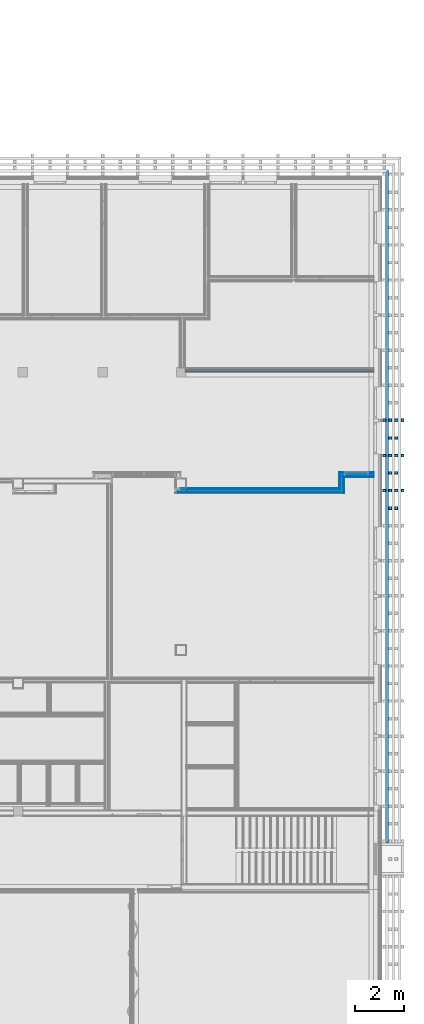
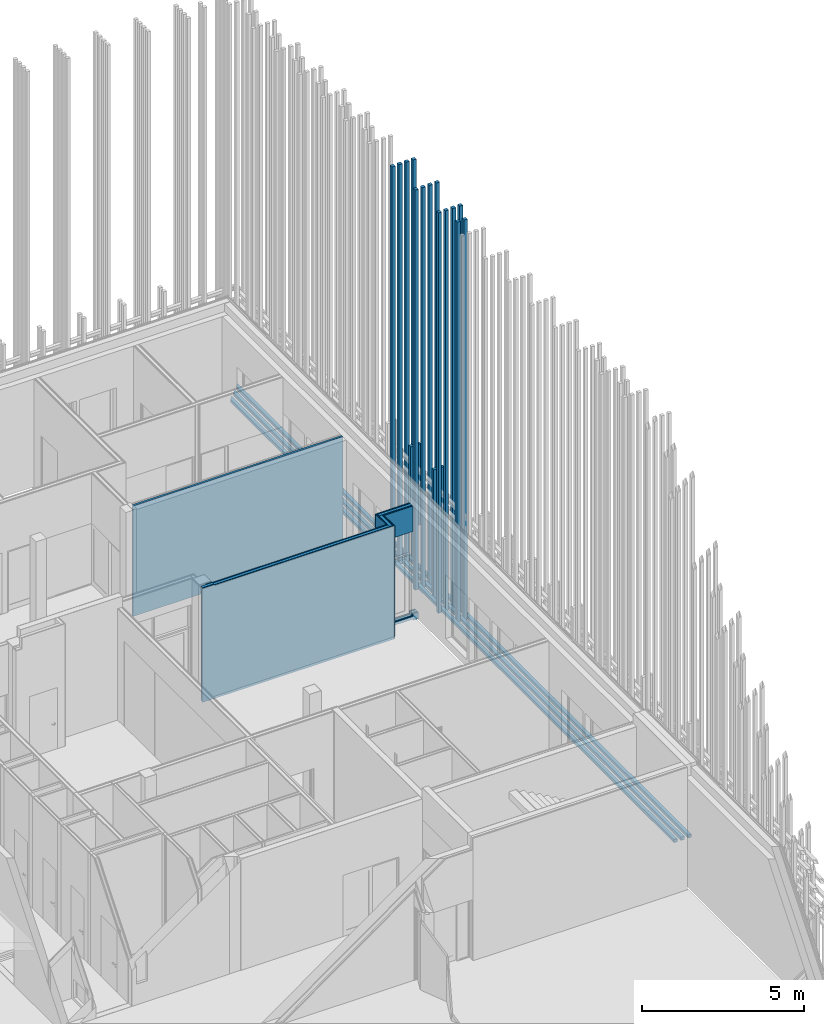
# One storey, part 214 of 260: 27 building element parts, 7 discrete accessories, 1 opening, 4 elements without a shape of their own.
"""IFC2X3 building model written with IfcOpenShell, lengths in millimetres."""

import ifcopenshell
import ifcopenshell.guid

model = None  # the IFC model being written
_history = None  # IfcOwnerHistory: only IFC2X3 demands one
_inside = {}  # id of a spatial element -> (the spatial element, [elements in it])
_under = {}  # id of a project, library or spatial element -> (it, [spatial elements below it])
_declared = {}  # id of a project -> (the project, [libraries it declares])
_typed = {}  # id of a type object -> (the type object, [elements of that type])
_made_of = {}  # id of a material, layer set ... -> (it, [elements and type objects made of it])


def new_model(schema):
    """Start an empty IFC model of exactly this schema.

    Asked for "IFC4X3", IfcOpenShell would pick the latest addendum, in which some entities
    have other attributes; the version numbers below select the first issue.
    IFC2X3 requires an IfcOwnerHistory on every rooted entity: one is made here for all.
    """
    global model, _history
    if schema == "IFC4X3":
        model = ifcopenshell.file(schema_version=(4, 3, 0, 0))
    else:
        model = ifcopenshell.file(schema=schema)
    _inside.clear()
    _under.clear()
    _declared.clear()
    _typed.clear()
    _made_of.clear()
    _history = None
    if model.schema == "IFC2X3":
        org = make("IfcOrganization", Name="unknown")
        user = make(
            "IfcPersonAndOrganization",
            ThePerson=make("IfcPerson", FamilyName="unknown"),
            TheOrganization=org,
        )
        app = make(
            "IfcApplication",
            ApplicationDeveloper=org,
            Version="unknown",
            ApplicationFullName="unknown",
            ApplicationIdentifier="unknown",
        )
        _history = make(
            "IfcOwnerHistory",
            OwningUser=user,
            OwningApplication=app,
            ChangeAction="ADDED",
            CreationDate=0,
        )
    return model


def make(cls, **values):
    """One entity of the class cls with the attributes given. An attribute that is None is left unset."""
    return model.create_entity(
        cls, **{name: value for name, value in values.items() if value is not None}
    )


def entity(cls, *values):
    """Any entity or typed value of the class cls, its attributes in the order of the schema. None: left unset."""
    e = model.create_entity(cls)
    for i, value in enumerate(values):
        if value is not None:
            e[i] = value
    return e


def rooted(cls, **values):
    """An entity with a GlobalId (a new one), such as an element, a storey or a relation."""
    return make(cls, GlobalId=ifcopenshell.guid.new(), OwnerHistory=_history, **values)


def si_unit(unit_type, name, prefix=None):
    """IfcSIUnit, for example si_unit("LENGTHUNIT", "METRE", prefix="MILLI")."""
    return make("IfcSIUnit", UnitType=unit_type, Prefix=prefix, Name=name)


def converted_unit(unit_type, name, factor, base, dimensions=None, offset=None):
    """IfcConversionBasedUnit, such as the inch: factor (a typed value) times the base unit."""
    return make(
        "IfcConversionBasedUnit"
        if offset is None
        else "IfcConversionBasedUnitWithOffset",
        ConversionOffset=offset,
        Dimensions=None
        if dimensions is None
        else entity("IfcDimensionalExponents", *dimensions),
        UnitType=unit_type,
        Name=name,
        ConversionFactor=make(
            "IfcMeasureWithUnit", ValueComponent=factor, UnitComponent=base
        ),
    )


def derived_unit(unit_type, elements):
    """IfcDerivedUnit: a product of units, each with its exponent."""
    return make(
        "IfcDerivedUnit",
        Elements=[
            make("IfcDerivedUnitElement", Unit=unit, Exponent=power)
            for unit, power in elements
        ],
        UnitType=unit_type,
    )


def money_unit(currency):
    """IfcMonetaryUnit."""
    return make("IfcMonetaryUnit", Currency=currency)


def assignment(units):
    """IfcUnitAssignment: the units of a project."""
    return None if units is None else make("IfcUnitAssignment", Units=units)


def point(xyz):
    """IfcCartesianPoint."""
    return None if xyz is None else make("IfcCartesianPoint", Coordinates=xyz)


def direction(xyz):
    """IfcDirection."""
    return None if xyz is None else make("IfcDirection", DirectionRatios=xyz)


def frame(location, z_axis=None, x_axis=None):
    """IfcAxis2Placement3D, a coordinate frame: its origin and axes. An axis left out is left unset."""
    return make(
        "IfcAxis2Placement3D",
        Location=point(location),
        Axis=direction(z_axis),
        RefDirection=direction(x_axis),
    )


def origin_with_axes():
    """The frame at (0, 0, 0) with the z axis (0, 0, 1) and the x axis (1, 0, 0) written out."""
    return frame((0.0, 0.0, 0.0), z_axis=(0.0, 0.0, 1.0), x_axis=(1.0, 0.0, 0.0))


def place(relative_to, where):
    """IfcLocalPlacement: puts the frame where relative to a parent placement (None: the world)."""
    return make(
        "IfcLocalPlacement", PlacementRelTo=relative_to, RelativePlacement=where
    )


def context(
    kind, dimensions, precision=None, world=None, true_north=None, identifier=None
):
    """IfcGeometricRepresentationContext, for example the 3D "Model" context."""
    return make(
        "IfcGeometricRepresentationContext",
        ContextIdentifier=identifier,
        ContextType=kind,
        CoordinateSpaceDimension=dimensions,
        Precision=precision,
        WorldCoordinateSystem=world,
        TrueNorth=true_north,
    )


def subcontext(parent, identifier, kind, view, scale=None):
    """IfcGeometricRepresentationSubContext, for example "Body" below "Model"."""
    return make(
        "IfcGeometricRepresentationSubContext",
        ContextIdentifier=identifier,
        ContextType=kind,
        ParentContext=parent,
        TargetScale=scale,
        TargetView=view,
    )


def project(units=None, contexts=None):
    """IfcProject with its units and contexts."""
    return rooted(
        "IfcProject",
        Name="project",
        RepresentationContexts=contexts,
        UnitsInContext=assignment(units),
    )


def spatial(cls, under=None, at=None, **own):
    """A site, building, storey or space (cls), placed at a placement, below another one or the project."""
    s = rooted(cls, ObjectPlacement=at, **own)
    if under is not None:
        _under.setdefault(under.id(), (under, []))[1].append(s)
    return s


def faces_of(points, faces, orient=None, outer=None):
    """IfcFace entities. A face is a list of loops; a loop is a list of indices into points, from 0.

    orient and outer hold one flag for each loop. By default every Orientation is true, the
    first loop of a face is its IfcFaceOuterBound and the others are IfcFaceBound.
    """
    made = []
    for i, loops in enumerate(faces):
        bounds = []
        for j, loop in enumerate(loops):
            is_outer = j == 0 if outer is None else outer[i][j]
            bounds.append(
                make(
                    "IfcFaceOuterBound" if is_outer else "IfcFaceBound",
                    Bound=make("IfcPolyLoop", Polygon=[points[k] for k in loop]),
                    Orientation=True if orient is None else orient[i][j],
                )
            )
        made.append(make("IfcFace", Bounds=bounds))
    return made


def faceted_brep(points, faces, orient=None, outer=None, voids=None):
    """IfcFacetedBrep: a solid bounded by flat faces; with voids (closed shells), ...WithVoids."""
    shared = [point(p) for p in points]
    hull = make("IfcClosedShell", CfsFaces=faces_of(shared, faces, orient, outer))
    if voids is None:
        return make("IfcFacetedBrep", Outer=hull)
    return make(
        "IfcFacetedBrepWithVoids",
        Outer=hull,
        Voids=[
            make(cls, CfsFaces=faces_of(shared, fs, o, b)) for cls, fs, o, b in voids
        ],
    )


def shape(context_of_items, identifier, shape_type, items):
    """IfcShapeRepresentation: the items that make up one representation, for example the "Body"."""
    return make(
        "IfcShapeRepresentation",
        ContextOfItems=context_of_items,
        RepresentationIdentifier=identifier,
        RepresentationType=shape_type,
        Items=items,
    )


def material(Name=None, Category=None):
    """IfcMaterial."""
    return make("IfcMaterial", Name=Name, Category=Category)


def material_list(materials):
    """IfcMaterialList."""
    return make("IfcMaterialList", Materials=materials)


def made_of(thing, what):
    """Note that an element or type object is made of a material, layer set ...; save() writes the relation."""
    if what is not None:
        _made_of.setdefault(what.id(), (what, []))[1].append(thing)
    return thing


def type_object(cls, material=None, **own):
    """A type object (cls), such as IfcWallType, which elements share."""
    return made_of(rooted(cls, **own), material)


def element(
    cls,
    number,
    at=None,
    inside=None,
    cuts=None,
    type_object=None,
    material=None,
    context=None,
    identifier="Body",
    shape_type=None,
    held_by="IfcProductDefinitionShape",
    body=None,
    shapes=None,
    **own,
):
    """One element of the class cls, such as IfcWall. Its Tag is "e" and its number.

    at: its placement. inside: the storey or other place that contains it. cuts: it is an
    opening in that element (IfcRelVoidsElement). A single representation is given by context,
    identifier, shape_type and body (its items); several are given by shapes. held_by: the class
    of the entity that holds the representations. save() writes the other relations.
    """
    e = rooted(cls, Tag="e%d" % number, ObjectPlacement=at, **own)
    if body is not None:
        shapes = [shape(context, identifier, shape_type, body)]
    if shapes is not None:
        e.Representation = make(held_by, Representations=shapes)
    if inside is not None:
        _inside.setdefault(inside.id(), (inside, []))[1].append(e)
    if cuts is not None:
        rooted(
            "IfcRelVoidsElement", RelatingBuildingElement=cuts, RelatedOpeningElement=e
        )
    if type_object is not None:
        _typed.setdefault(type_object.id(), (type_object, []))[1].append(e)
    return made_of(e, material)


def aggregate(whole, parts):
    """IfcRelAggregates: a whole, such as a stair, and the parts it consists of."""
    return rooted("IfcRelAggregates", RelatingObject=whole, RelatedObjects=parts)


def save(model, path):
    """Write the relations noted so far, then the file.

    IfcRelAggregates (storeys below a building ...), IfcRelContainedInSpatialStructure (elements
    in a storey), IfcRelDefinesByType, IfcRelAssociatesMaterial and IfcRelDeclares: one each for
    every whole, place, type object, material and project.
    """
    for whole, parts in _under.values():
        aggregate(whole, parts)
    for where, things in _inside.values():
        rooted(
            "IfcRelContainedInSpatialStructure",
            RelatedElements=things,
            RelatingStructure=where,
        )
    for kind, things in _typed.values():
        rooted("IfcRelDefinesByType", RelatedObjects=things, RelatingType=kind)
    for what, things in _made_of.values():
        rooted("IfcRelAssociatesMaterial", RelatedObjects=things, RelatingMaterial=what)
    for by, libraries in _declared.values():
        rooted("IfcRelDeclares", RelatingContext=by, RelatedDefinitions=libraries)
    model.write(path)


model = new_model("IFC2X3")

# Units and contexts
model_context = context("Model", 3, precision=0.01, world=origin_with_axes(), true_north=direction((0.0, 1.0)))
body_context = subcontext(model_context, "Body", "Model", "MODEL_VIEW")
ifc_project = project(units=[si_unit("LENGTHUNIT", "METRE", prefix="MILLI"), si_unit("AREAUNIT", "SQUARE_METRE"), si_unit("VOLUMEUNIT", "CUBIC_METRE"), converted_unit("PLANEANGLEUNIT", "DEGREE", entity("IfcPlaneAngleMeasure", 0.0174532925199), si_unit("PLANEANGLEUNIT", "RADIAN"), dimensions=[0, 0, 0, 0, 0, 0, 0]), money_unit("EUR"), converted_unit("TIMEUNIT", "Year", entity("IfcTimeMeasure", 31556926.0), si_unit("TIMEUNIT", "SECOND"), dimensions=[0, 0, 1, 0, 0, 0, 0]), si_unit("MASSUNIT", "GRAM", prefix="KILO"), si_unit("THERMODYNAMICTEMPERATUREUNIT", "DEGREE_CELSIUS"), si_unit("LUMINOUSINTENSITYUNIT", "LUMEN"), si_unit("ENERGYUNIT", "JOULE", prefix="MEGA"), derived_unit("THERMALCONDUCTANCEUNIT", [(si_unit("POWERUNIT", "WATT"), 1), (si_unit("LENGTHUNIT", "METRE"), -1), (si_unit("THERMODYNAMICTEMPERATUREUNIT", "KELVIN"), -1)]), derived_unit("SPECIFICHEATCAPACITYUNIT", [(si_unit("ENERGYUNIT", "JOULE"), 1), (si_unit("MASSUNIT", "GRAM", prefix="KILO"), -1), (si_unit("THERMODYNAMICTEMPERATUREUNIT", "KELVIN"), -1)]), derived_unit("MASSDENSITYUNIT", [(si_unit("MASSUNIT", "GRAM", prefix="KILO"), 1), (si_unit("VOLUMEUNIT", "CUBIC_METRE"), -1)])], contexts=[model_context])

# Site, building, storey
site_placement = place(None, origin_with_axes())
site = spatial("IfcSite", under=ifc_project, at=site_placement, Name="Kolde pst 67a", CompositionType="ELEMENT")
building_placement = place(site_placement, origin_with_axes())
building = spatial("IfcBuilding", under=site, at=building_placement, Name="Riigigümnaasium", CompositionType="ELEMENT")
storey_placement = place(building_placement, origin_with_axes())
storey = spatial("IfcBuildingStorey", under=building, at=storey_placement, Name="1. korrus", CompositionType="ELEMENT", Elevation=0.0)

# Discrete accessories
ifc_material_1 = material(Name="_VÄLISVIIMISTLUS - sõrmjätkatud puitprussid 120x115mm, liitekohad vähemärgatavad, Platowood sõrmjätkatud kuusk või samaväärne; eeltöödeldud tuletõkkevõõbaga, tuletundlikkus B-s1, d0, Woodsafe Exterior WFX™ või samaväärne; kinnitused vastavalt EK osale")
ifc_material_list_1 = material_list([ifc_material_1, ifc_material_1, ifc_material_1, ifc_material_1])
discrete_accessory_type_1 = type_object("IfcDiscreteAccessoryType", Name="120 4-ne vertikaalne 870 x 115")
for number, where, z_axis, x_axis in (
    (1, (84792.0363482, 23947.5301381, 280.0), (0.0, 0.0, 1.0), (-0.999999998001, 6.32316306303e-05, 0.0)),
    (2, (84792.0363482, 25377.5259013, 280.0), (0.0, 0.0, 1.0), (-0.999999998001, 6.32316306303e-05, 0.0)),
    (3, (84792.0287604, 26807.5259029, 280.0), (0.0, 0.0, 1.0), (-0.999999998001, 6.32316306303e-05, 0.0)),
):
    element("IfcDiscreteAccessory", number, at=place(storey_placement, frame(where, z_axis=z_axis, x_axis=x_axis)), inside=storey, type_object=discrete_accessory_type_1, material=ifc_material_list_1, Name="Päikesevarjestus", context=body_context, shape_type="Brep", body=[
        faceted_brep([(-133.0, -70.0, 0.0), (-13.0, -70.0, 0.0), (-13.0, -70.0, 15050.0), (-133.0, -70.0, 15050.0), (-133.0, 45.0, 0.0), (-13.0, 45.0, 0.0), (-13.0, 45.0, 15050.0), (-133.0, 45.0, 15050.0)], [[[0, 1, 2, 3]], [[0, 4, 5, 1]], [[1, 5, 6, 2]], [[3, 2, 6, 7]], [[4, 0, 3, 7]], [[5, 4, 7, 6]]]),
        faceted_brep([(-383.0, -70.0, 0.0), (-263.0, -70.0, 0.0), (-263.0, -70.0, 15050.0), (-383.0, -70.0, 15050.0), (-383.0, 45.0, 0.0), (-263.0, 45.0, 0.0), (-263.0, 45.0, 15050.0), (-383.0, 45.0, 15050.0)], [[[0, 1, 2, 3]], [[0, 4, 5, 1]], [[1, 5, 6, 2]], [[3, 2, 6, 7]], [[4, 0, 3, 7]], [[5, 4, 7, 6]]]),
        faceted_brep([(-633.0, -70.0, 0.0), (-513.0, -70.0, 0.0), (-513.0, -70.0, 15050.0), (-633.0, -70.0, 15050.0), (-633.0, 45.0, 0.0), (-513.0, 45.0, 0.0), (-513.0, 45.0, 15050.0), (-633.0, 45.0, 15050.0)], [[[0, 1, 2, 3]], [[0, 4, 5, 1]], [[1, 5, 6, 2]], [[3, 2, 6, 7]], [[4, 0, 3, 7]], [[5, 4, 7, 6]]]),
        faceted_brep([(-883.0, -70.0, 0.0), (-763.0, -70.0, 0.0), (-763.0, -70.0, 15050.0), (-883.0, -70.0, 15050.0), (-883.0, 45.0, 0.0), (-763.0, 45.0, 0.0), (-763.0, 45.0, 15050.0), (-883.0, 45.0, 15050.0)], [[[0, 1, 2, 3]], [[0, 4, 5, 1]], [[1, 5, 6, 2]], [[3, 2, 6, 7]], [[4, 0, 3, 7]], [[5, 4, 7, 6]]]),
    ])
ifc_material_list_2 = material_list([ifc_material_1, ifc_material_1, ifc_material_1])
discrete_accessory_type_2 = type_object("IfcDiscreteAccessoryType", Name="120 1+paiksekaitse 3 tk  620 x 115")
discrete_accessory_1_placement = place(storey_placement, frame((84805.0333446, 9600.03116349, 352.5), z_axis=(0.0, 0.0, 1.0), x_axis=(1.0, -4.4594955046e-07, 0.0)))
element("IfcDiscreteAccessory", 4, at=discrete_accessory_1_placement, inside=storey, type_object=discrete_accessory_type_2, material=ifc_material_list_2, Name="Päikesevarjestus", context=body_context, shape_type="Brep", body=[
    faceted_brep([(625.0, 27829.9411595, 45.0), (625.0, 0.0, 45.0), (745.0, 0.0, 45.0), (745.0, 27949.9412422, 45.0), (625.0, 27829.9411595, -70.0), (625.0, 0.0, -70.0), (745.0, 0.0, -70.0), (745.0, 27949.9412422, -70.0)], [[[0, 1, 2, 3]], [[4, 5, 1, 0]], [[5, 6, 2, 1]], [[3, 2, 6, 7]], [[4, 0, 3, 7]], [[7, 6, 5, 4]]]),
    faceted_brep([(375.0, 27579.9409871, 45.0), (375.0, 0.0, 45.0), (495.0, 0.0, 45.0), (495.0, 27699.9410699, 45.0), (375.0, 27579.9409871, -70.0), (375.0, 0.0, -70.0), (495.0, 0.0, -70.0), (495.0, 27699.9410699, -70.0)], [[[0, 1, 2, 3]], [[4, 5, 1, 0]], [[5, 6, 2, 1]], [[3, 2, 6, 7]], [[4, 0, 3, 7]], [[7, 6, 5, 4]]]),
    faceted_brep([(125.0, 27329.9408147, 45.0), (125.0, 0.0, 45.0), (245.0, 0.0, 45.0), (245.0, 27449.9408975, 45.0), (125.0, 27329.9408147, -70.0), (125.0, 0.0, -70.0), (245.0, 0.0, -70.0), (245.0, 27449.9408975, -70.0)], [[[0, 1, 2, 3]], [[4, 5, 1, 0]], [[5, 6, 2, 1]], [[3, 2, 6, 7]], [[4, 0, 3, 7]], [[7, 6, 5, 4]]]),
])
ifc_material_list_3 = material_list([ifc_material_1, ifc_material_1])
discrete_accessory_type_3 = type_object("IfcDiscreteAccessoryType", Name="1+paiksekaitse 3 370 x 115")
discrete_accessory_2_placement = place(storey_placement, frame((85772.0333434, 23304.9912873, 280.0), z_axis=(0.0, 0.0, 1.0), x_axis=(-1.0, 0.0, 0.0)))
element("IfcDiscreteAccessory", 5, at=discrete_accessory_2_placement, inside=storey, type_object=discrete_accessory_type_3, material=ifc_material_list_3, Name="Päikesevarjestus", context=body_context, shape_type="Brep", body=[
    faceted_brep([(467.0, 117.5, 0.0), (347.0, 117.5, 0.0), (347.0, 117.5, 15050.0), (467.0, 117.5, 15050.0), (467.0, 2.5, 0.0), (347.0, 2.5, 0.0), (347.0, 2.5, 15050.0), (467.0, 2.5, 15050.0)], [[[0, 1, 2, 3]], [[0, 4, 5, 1]], [[1, 5, 6, 2]], [[3, 2, 6, 7]], [[4, 0, 3, 7]], [[5, 4, 7, 6]]]),
    faceted_brep([(717.0, 117.5, 0.0), (597.0, 117.5, 0.0), (597.0, 117.5, 15050.0), (717.0, 117.5, 15050.0), (717.0, 2.5, 0.0), (597.0, 2.5, 0.0), (597.0, 2.5, 15050.0), (717.0, 2.5, 15050.0)], [[[0, 1, 2, 3]], [[0, 4, 5, 1]], [[1, 5, 6, 2]], [[3, 2, 6, 7]], [[4, 0, 3, 7]], [[5, 4, 7, 6]]]),
])
discrete_accessory_3_placement = place(storey_placement, frame((85772.0257564, 24735.0094603, 280.0), z_axis=(0.0, 0.0, 1.0), x_axis=(-1.0, 0.0, 0.0)))
element("IfcDiscreteAccessory", 6, at=discrete_accessory_3_placement, inside=storey, type_object=discrete_accessory_type_3, material=ifc_material_list_3, Name="Päikesevarjestus", context=body_context, shape_type="Brep", body=[
    faceted_brep([(467.0, 117.5, 0.0), (347.0, 117.5, 0.0), (347.0, 117.5, 4870.00014213), (467.0, 117.5, 4870.00014213), (467.0, 2.5, 0.0), (347.0, 2.5, 0.0), (347.0, 2.5, 4870.00014213), (467.0, 2.5, 4870.00014213)], [[[0, 1, 2, 3]], [[0, 4, 5, 1]], [[1, 5, 6, 2]], [[3, 2, 6, 7]], [[4, 0, 3, 7]], [[5, 4, 7, 6]]]),
    faceted_brep([(717.0, 117.5, 0.0), (597.0, 117.5, 0.0), (597.0, 117.5, 4870.00014213), (717.0, 117.5, 4870.00014213), (717.0, 2.5, 0.0), (597.0, 2.5, 0.0), (597.0, 2.5, 4870.00014213), (717.0, 2.5, 4870.00014213)], [[[0, 1, 2, 3]], [[0, 4, 5, 1]], [[1, 5, 6, 2]], [[3, 2, 6, 7]], [[4, 0, 3, 7]], [[5, 4, 7, 6]]]),
])
discrete_accessory_4_placement = place(storey_placement, frame((85772.0257564, 26165.0052235, 2100.00014213), z_axis=(0.0, 0.0, 1.0), x_axis=(-1.0, 0.0, 0.0)))
element("IfcDiscreteAccessory", 7, at=discrete_accessory_4_placement, inside=storey, type_object=discrete_accessory_type_3, material=ifc_material_list_3, Name="Päikesevarjestus", context=body_context, shape_type="Brep", body=[
    faceted_brep([(467.0, 117.5, 0.0), (347.0, 117.5, 0.0), (347.0, 117.5, 3050.0), (467.0, 117.5, 3050.0), (467.0, 2.5, 0.0), (347.0, 2.5, 0.0), (347.0, 2.5, 3050.0), (467.0, 2.5, 3050.0)], [[[0, 1, 2, 3]], [[0, 4, 5, 1]], [[1, 5, 6, 2]], [[3, 2, 6, 7]], [[4, 0, 3, 7]], [[5, 4, 7, 6]]]),
    faceted_brep([(717.0, 117.5, 0.0), (597.0, 117.5, 0.0), (597.0, 117.5, 3050.0), (717.0, 117.5, 3050.0), (717.0, 2.5, 0.0), (597.0, 2.5, 0.0), (597.0, 2.5, 3050.0), (717.0, 2.5, 3050.0)], [[[0, 1, 2, 3]], [[0, 4, 5, 1]], [[1, 5, 6, 2]], [[3, 2, 6, 7]], [[4, 0, 3, 7]], [[5, 4, 7, 6]]]),
])

# Wall, building element part
wall_type_1 = type_object("IfcWallType", Name="SS-CLT-20/2_vill+dold 360", PredefinedType="NOTDEFINED")
wall_1_placement = place(storey_placement, frame((76780.0020631, 28589.9993109, 0.0), z_axis=(0.0, 0.0, 1.0), x_axis=(1.0, 0.0, 0.0)))
wall_1 = element("IfcWall", 8, at=wall_1_placement, inside=storey, type_object=wall_type_1, Name="Sisesein")
ifc_material_2 = material(Name="_KARKASS - metallkarkass CW 75/50/06 ja UW 75/40/06, samm 600, vahel mineraalvill, helineeldetegur αw = 1.0,  ISOVER ACOUSTIC 75mm või samaväärne")
building_element_part_1_placement = place(wall_1_placement, origin_with_axes())
building_element_part_1 = element("IfcBuildingElementPart", 9, at=building_element_part_1_placement, material=ifc_material_2, Name="_KARKASS - metallkarkass CW 75/50/06 ja UW 75/40/06, samm 600, vahel mineraalvill, helineeldetegur αw = 1.0,  ISOVER ACOUSTIC 75mm või samaväärne", context=body_context, shape_type="Brep", body=[
    faceted_brep([(0.0, 290.0, 0.0), (0.0, 290.0, 4156.9), (7459.99726487, 290.000000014, 4156.9), (7459.99726487, 290.000001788, 100.0), (7659.99726487, 290.000001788, 100.0), (7659.99678877, 290.000001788, 0.0), (0.0, 215.0, 0.0), (0.0, 215.0, 4156.9), (7459.99726487, 215.000000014, 4156.9), (7459.99726487, 215.000001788, 100.0), (7659.99726487, 215.000001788, 100.0), (7659.99678877, 215.000001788, 0.0)], [[[0, 1, 2, 3, 4, 5]], [[6, 7, 1, 0]], [[7, 8, 2, 1]], [[3, 2, 8, 9]], [[3, 9, 10, 4]], [[11, 5, 4, 10]], [[11, 6, 0, 5]], [[9, 8, 7, 6, 11, 10]]]),
])
aggregate(wall_1, [building_element_part_1])

# Wall, opening, building element parts
wall_type_2 = type_object("IfcWallType", Name="SS-PK-10/1_vill100+2dold 220", PredefinedType="NOTDEFINED")
wall_2_placement = place(storey_placement, frame((83250.0020631, 24514.9999722, -150.0), z_axis=(0.0, 0.0, 1.0), x_axis=(1.0, 0.0, 0.0)))
wall_2 = element("IfcWall", 10, at=wall_2_placement, inside=storey, type_object=wall_type_2, Name="Sisesein")
opening_placement = place(wall_2_placement, frame((484.998632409, 0.0, 150.0), z_axis=(0.0, 0.0, 1.0), x_axis=(1.0, 0.0, 0.0)))
element("IfcOpeningElement", 11, at=opening_placement, cuts=wall_2, Name="Ukseava", context=body_context, shape_type="Brep", body=[
    faceted_brep([(504.998632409, 440.0, 0.0), (504.998632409, 440.0, 3200.0), (504.998632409, -220.0, 3200.0), (504.998632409, -220.0, 0.0), (-504.998632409, 440.0, 0.0), (-504.998632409, 440.0, 3200.0), (-504.998632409, -220.0, 3200.0), (-504.998632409, -220.0, 0.0)], [[[0, 1, 2, 3]], [[0, 4, 5, 1]], [[1, 5, 6, 2]], [[3, 2, 6, 7]], [[4, 0, 3, 7]], [[5, 4, 7, 6]]]),
])
ifc_material_3 = material(Name="_VIIMISTLUSKIHT - Dold plaat vastavalt SA osale")
building_element_part_2_placement = place(wall_2_placement, origin_with_axes())
building_element_part_2 = element("IfcBuildingElementPart", 12, at=building_element_part_2_placement, material=ifc_material_3, Name="_VIIMISTLUSKIHT - Dold plaat vastavalt SA osale", context=body_context, shape_type="Brep", body=[
    faceted_brep([(989.997264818, 180.0, 3350.0), (989.997264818, 200.0, 3350.0), (989.997264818, 200.0, 4306.9), (989.997264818, 180.0, 4306.9), (-20.0, 200.0, 3350.0), (-20.0, 180.0, 3350.0), (989.997264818, 200.0, 150.0), (989.997264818, 200.0, 250.0), (1189.99726482, 200.0, 250.0), (1189.99651428, 200.0, 0.0), (1016.23744242, 200.0, 0.0), (1016.23744242, 200.0, 49.9), (-220.0, 200.0, 49.9), (-220.0, 200.0, 4306.9), (-20.0, 200.0, 150.0), (-220.0, 180.0, 4306.9), (-220.0, 180.0, 49.9), (1016.23744242, 180.0, 49.9), (1016.23744242, 180.0, 0.0), (1189.99651428, 180.0, 0.0), (1189.99726482, 180.0, 250.0), (989.997264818, 180.0, 250.0), (989.997264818, 180.0, 150.0), (-20.0, 180.0, 150.0)], [[[0, 1, 2, 3]], [[4, 1, 0, 5]], [[6, 7, 8, 9, 10, 11, 12, 13, 2, 1, 4, 14]], [[2, 13, 15, 3]], [[5, 0, 3, 15, 16, 17, 18, 19, 20, 21, 22, 23]], [[14, 4, 5, 23]], [[21, 7, 6, 22]], [[7, 21, 20, 8]], [[8, 20, 19, 9]], [[10, 9, 19, 18]], [[10, 18, 17, 11]], [[11, 17, 16, 12]], [[16, 15, 13, 12]], [[6, 14, 23, 22]]]),
])
ifc_material_4 = material(Name="_KARKASS - eriprofiilkinnitus vastavalt sisemisele plaatviimistlusele")
building_element_part_3_placement = place(wall_2_placement, origin_with_axes())
building_element_part_3 = element("IfcBuildingElementPart", 13, at=building_element_part_3_placement, material=ifc_material_4, Name="_KARKASS - eriprofiilkinnitus vastavalt sisemisele plaatviimistlusele", context=body_context, shape_type="Brep", body=[
    faceted_brep([(989.997264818, 170.0, 3350.0), (989.997264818, 180.0, 3350.0), (989.997264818, 180.0, 4306.9), (989.997264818, 170.0, 4306.9), (-20.0, 180.0, 3350.0), (-20.0, 170.0, 3350.0), (989.997264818, 180.0, 150.0), (989.997264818, 180.0, 250.0), (1189.99726482, 180.0, 250.0), (1189.99651428, 180.0, 0.0), (1016.23744242, 180.0, 0.0), (1016.23744242, 180.0, 49.9), (-220.0, 180.0, 49.9), (-220.0, 180.0, 4306.9), (-20.0, 180.0, 150.0), (-220.0, 170.0, 4306.9), (-220.0, 170.0, 49.9), (1016.23744242, 170.0, 49.9), (1016.23744242, 170.0, 0.0), (1189.99651428, 170.0, 0.0), (1189.99726482, 170.0, 250.0), (989.997264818, 170.0, 250.0), (989.997264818, 170.0, 150.0), (-20.0, 170.0, 150.0)], [[[0, 1, 2, 3]], [[4, 1, 0, 5]], [[6, 7, 8, 9, 10, 11, 12, 13, 2, 1, 4, 14]], [[2, 13, 15, 3]], [[5, 0, 3, 15, 16, 17, 18, 19, 20, 21, 22, 23]], [[14, 4, 5, 23]], [[21, 7, 6, 22]], [[7, 21, 20, 8]], [[8, 20, 19, 9]], [[10, 9, 19, 18]], [[10, 18, 17, 11]], [[11, 17, 16, 12]], [[16, 15, 13, 12]], [[6, 14, 23, 22]]]),
])
ifc_material_5 = material(Name="_PLAATMATERJAL - tuletõkkekipsplaat, Knauf Red GKF või samaväärne")
building_element_part_4_placement = place(wall_2_placement, origin_with_axes())
building_element_part_4 = element("IfcBuildingElementPart", 14, at=building_element_part_4_placement, material=ifc_material_5, Name="_PLAATMATERJAL - tuletõkkekipsplaat, Knauf Red GKF või samaväärne", context=body_context, shape_type="Brep", body=[
    faceted_brep([(989.997264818, 155.0, 3350.0), (989.997264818, 170.0, 3350.0), (989.997264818, 170.0, 4306.9), (989.997264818, 155.0, 4306.9), (-20.0, 170.0, 3350.0), (-20.0, 155.0, 3350.0), (989.997264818, 170.0, 150.0), (989.997264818, 170.0, 250.0), (1189.99726482, 170.0, 250.0), (1189.99651428, 170.0, 0.0), (1016.23744242, 170.0, 0.0), (1016.23744242, 170.0, 49.9), (-215.0, 170.0, 49.9), (-215.0, 170.0, 4306.9), (-20.0, 170.0, 150.0), (-215.0, 155.0, 4306.9), (-215.0, 155.0, 49.9), (1016.23744242, 155.0, 49.9), (1016.23744242, 155.0, 0.0), (1189.99651428, 155.0, 0.0), (1189.99726482, 155.0, 250.0), (989.997264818, 155.0, 250.0), (989.997264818, 155.0, 150.0), (-20.0, 155.0, 150.0)], [[[0, 1, 2, 3]], [[4, 1, 0, 5]], [[6, 7, 8, 9, 10, 11, 12, 13, 2, 1, 4, 14]], [[2, 13, 15, 3]], [[5, 0, 3, 15, 16, 17, 18, 19, 20, 21, 22, 23]], [[14, 4, 5, 23]], [[21, 7, 6, 22]], [[7, 21, 20, 8]], [[8, 20, 19, 9]], [[10, 9, 19, 18]], [[10, 18, 17, 11]], [[11, 17, 16, 12]], [[16, 15, 13, 12]], [[6, 14, 23, 22]]]),
])
building_element_part_5_placement = place(wall_2_placement, origin_with_axes())
building_element_part_5 = element("IfcBuildingElementPart", 15, at=building_element_part_5_placement, material=ifc_material_5, Name="_PLAATMATERJAL - tuletõkkekipsplaat, Knauf Red GKF või samaväärne", context=body_context, shape_type="Brep", body=[
    faceted_brep([(989.997264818, 140.0, 3350.0), (989.997264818, 155.0, 3350.0), (989.997264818, 155.0, 4306.9), (989.997264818, 140.0, 4306.9), (-20.0, 155.0, 3350.0), (-20.0, 140.0, 3350.0), (989.997264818, 155.0, 150.0), (989.997264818, 155.0, 250.0), (1189.99726482, 155.0, 250.0), (1189.99651428, 155.0, 0.0), (1016.23744242, 155.0, 0.0), (1016.23744242, 155.0, 49.9), (-200.0, 155.0, 49.9), (-200.0, 155.0, 4306.9), (-20.0, 155.0, 150.0), (-200.0, 140.0, 4306.9), (-200.0, 140.0, 49.9), (1016.23744242, 140.0, 49.9), (1016.23744242, 140.0, 0.0), (1189.99651428, 140.0, 0.0), (1189.99726482, 140.0, 250.0), (989.997264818, 140.0, 250.0), (989.997264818, 140.0, 150.0), (-20.0, 140.0, 150.0)], [[[0, 1, 2, 3]], [[4, 1, 0, 5]], [[6, 7, 8, 9, 10, 11, 12, 13, 2, 1, 4, 14]], [[2, 13, 15, 3]], [[5, 0, 3, 15, 16, 17, 18, 19, 20, 21, 22, 23]], [[14, 4, 5, 23]], [[21, 7, 6, 22]], [[7, 21, 20, 8]], [[8, 20, 19, 9]], [[10, 9, 19, 18]], [[10, 18, 17, 11]], [[11, 17, 16, 12]], [[16, 15, 13, 12]], [[6, 14, 23, 22]]]),
])
ifc_material_6 = material(Name="_KARKASS - puitpruss 100x50mm vertikaalne, samm 600mm, vahel mineraalvill, helineeldetegur αw = 1.0, ISOVER ACOUSTIC 100mm või samaväärne")
building_element_part_6_placement = place(wall_2_placement, origin_with_axes())
building_element_part_6 = element("IfcBuildingElementPart", 16, at=building_element_part_6_placement, material=ifc_material_6, Name="_KARKASS - puitpruss 100x50mm vertikaalne, samm 600mm, vahel mineraalvill, helineeldetegur αw = 1.0, ISOVER ACOUSTIC 100mm või samaväärne", context=body_context, shape_type="Brep", body=[
    faceted_brep([(989.997264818, 40.0, 3350.0), (989.997264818, 140.0, 3350.0), (989.997264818, 140.0, 4306.9), (989.997264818, 40.0, 4306.9), (-20.0, 140.0, 3350.0), (-20.0, 40.0, 3350.0), (989.997264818, 140.0, 150.0), (989.997264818, 140.0, 250.0), (1189.99726482, 140.0, 250.0), (1189.99651428, 140.0, 0.0), (1016.23744242, 140.0, 0.0), (1016.23744242, 140.0, 49.9), (-175.0, 140.0, 49.9), (-175.0, 140.0, 4306.9), (-20.0, 140.0, 150.0), (-175.0, 40.0, 4306.9), (-175.0, 40.0, 49.9), (1016.23744242, 40.0, 49.9), (1016.23744242, 40.0, 0.0), (1189.99651428, 40.0, 0.0), (1189.99726482, 40.0, 250.0), (989.997264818, 40.0, 250.0), (989.997264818, 40.0, 150.0), (-20.0, 40.0, 150.0)], [[[0, 1, 2, 3]], [[4, 1, 0, 5]], [[6, 7, 8, 9, 10, 11, 12, 13, 2, 1, 4, 14]], [[2, 13, 15, 3]], [[5, 0, 3, 15, 16, 17, 18, 19, 20, 21, 22, 23]], [[14, 4, 5, 23]], [[21, 7, 6, 22]], [[7, 21, 20, 8]], [[8, 20, 19, 9]], [[10, 9, 19, 18]], [[10, 18, 17, 11]], [[11, 17, 16, 12]], [[16, 15, 13, 12]], [[6, 14, 23, 22]]]),
])
building_element_part_7_placement = place(wall_2_placement, origin_with_axes())
building_element_part_7 = element("IfcBuildingElementPart", 17, at=building_element_part_7_placement, material=ifc_material_5, Name="_PLAATMATERJAL - tuletõkkekipsplaat, Knauf Red GKF või samaväärne", context=body_context, shape_type="Brep", body=[
    faceted_brep([(989.997264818, 25.0, 3350.0), (989.997264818, 40.0, 3350.0), (989.997264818, 40.0, 4306.9), (989.997264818, 25.0, 4306.9), (-20.0, 40.0, 3350.0), (-20.0, 25.0, 3350.0), (989.997264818, 40.0, 150.0), (989.997264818, 40.0, 250.0), (1189.99726482, 40.0, 250.0), (1189.99651428, 40.0, 0.0), (1016.23744242, 40.0, 0.0), (1016.23744242, 40.0, 49.9), (-75.0, 40.0, 49.9), (-75.0, 40.0, 4306.9), (-20.0, 40.0, 150.0), (-75.0, 25.0, 4306.9), (-75.0, 25.0, 49.9), (1016.23744242, 25.0, 49.9), (1016.23744242, 25.0, 0.0), (1189.99651428, 25.0, 0.0), (1189.99726482, 25.0, 250.0), (989.997264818, 25.0, 250.0), (989.997264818, 25.0, 150.0), (-20.0, 25.0, 150.0)], [[[0, 1, 2, 3]], [[4, 1, 0, 5]], [[6, 7, 8, 9, 10, 11, 12, 13, 2, 1, 4, 14]], [[2, 13, 15, 3]], [[5, 0, 3, 15, 16, 17, 18, 19, 20, 21, 22, 23]], [[14, 4, 5, 23]], [[21, 7, 6, 22]], [[7, 21, 20, 8]], [[8, 20, 19, 9]], [[10, 9, 19, 18]], [[10, 18, 17, 11]], [[11, 17, 16, 12]], [[16, 15, 13, 12]], [[6, 14, 23, 22]]]),
])
building_element_part_8_placement = place(wall_2_placement, origin_with_axes())
building_element_part_8 = element("IfcBuildingElementPart", 18, at=building_element_part_8_placement, material=ifc_material_5, Name="_PLAATMATERJAL - tuletõkkekipsplaat, Knauf Red GKF või samaväärne", context=body_context, shape_type="Brep", body=[
    faceted_brep([(989.997264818, 10.0, 3350.0), (989.997264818, 25.0, 3350.0), (989.997264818, 25.0, 4306.9), (989.997264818, 10.0, 4306.9), (-20.0, 25.0, 3350.0), (-20.0, 10.0, 3350.0), (989.997264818, 25.0, 150.0), (989.997264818, 25.0, 250.0), (1189.99726482, 25.0, 250.0), (1189.99651428, 25.0, 0.0), (1016.23744242, 25.0, 0.0), (1016.23744242, 25.0, 49.9), (-65.0, 25.0, 49.9), (-65.0, 25.0, 4306.9), (-20.0, 25.0, 150.0), (-65.0, 10.0, 4306.9), (-65.0, 10.0, 49.9), (1016.23744242, 10.0, 49.9), (1016.23744242, 10.0, 0.0), (1189.99651428, 10.0, 0.0), (1189.99726482, 10.0, 250.0), (989.997264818, 10.0, 250.0), (989.997264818, 10.0, 150.0), (-20.0, 10.0, 150.0)], [[[0, 1, 2, 3]], [[4, 1, 0, 5]], [[6, 7, 8, 9, 10, 11, 12, 13, 2, 1, 4, 14]], [[2, 13, 15, 3]], [[5, 0, 3, 15, 16, 17, 18, 19, 20, 21, 22, 23]], [[14, 4, 5, 23]], [[21, 7, 6, 22]], [[7, 21, 20, 8]], [[8, 20, 19, 9]], [[10, 9, 19, 18]], [[10, 18, 17, 11]], [[11, 17, 16, 12]], [[16, 15, 13, 12]], [[6, 14, 23, 22]]]),
])
building_element_part_9_placement = place(wall_2_placement, origin_with_axes())
building_element_part_9 = element("IfcBuildingElementPart", 19, at=building_element_part_9_placement, material=ifc_material_4, Name="_KARKASS - eriprofiilkinnitus vastavalt sisemisele plaatviimistlusele", context=body_context, shape_type="Brep", body=[
    faceted_brep([(989.997264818, 0.0, 3350.0), (989.997264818, 10.0, 3350.0), (989.997264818, 10.0, 4306.9), (989.997264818, 0.0, 4306.9), (-20.0, 10.0, 3350.0), (-20.0, 0.0, 3350.0), (989.997264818, 10.0, 150.0), (989.997264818, 10.0, 250.0), (1189.99726482, 10.0, 250.0), (1189.99651428, 10.0, 0.0), (1016.23744242, 10.0, 0.0), (1016.23744242, 10.0, 49.9), (-50.0, 10.0, 49.9), (-50.0, 10.0, 4306.9), (-20.0, 10.0, 150.0), (-50.0, 0.0, 4306.9), (-50.0, 0.0, 49.9), (1016.23744242, 0.0, 49.9), (1016.23744242, 0.0, 0.0), (1189.99651428, 0.0, 0.0), (1189.99726482, 0.0, 250.0), (989.997264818, 0.0, 250.0), (989.997264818, 0.0, 150.0), (-20.0, 0.0, 150.0)], [[[0, 1, 2, 3]], [[4, 1, 0, 5]], [[6, 7, 8, 9, 10, 11, 12, 13, 2, 1, 4, 14]], [[2, 13, 15, 3]], [[5, 0, 3, 15, 16, 17, 18, 19, 20, 21, 22, 23]], [[14, 4, 5, 23]], [[21, 7, 6, 22]], [[7, 21, 20, 8]], [[8, 20, 19, 9]], [[10, 9, 19, 18]], [[10, 18, 17, 11]], [[11, 17, 16, 12]], [[16, 15, 13, 12]], [[6, 14, 23, 22]]]),
])
building_element_part_10_placement = place(wall_2_placement, origin_with_axes())
building_element_part_10 = element("IfcBuildingElementPart", 20, at=building_element_part_10_placement, material=ifc_material_3, Name="_VIIMISTLUSKIHT - Dold plaat vastavalt SA osale", context=body_context, shape_type="Brep", body=[
    faceted_brep([(989.997264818, -20.0, 3350.0), (989.997264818, 0.0, 3350.0), (989.997264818, 0.0, 4306.9), (989.997264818, -20.0, 4306.9), (-20.0, 0.0, 3350.0), (-20.0, -20.0, 3350.0), (989.997264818, 0.0, 150.0), (989.997264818, 0.0, 250.0), (1189.99726482, 0.0, 250.0), (1189.99651428, 0.0, 0.0), (1016.23744242, 0.0, 0.0), (1016.23744242, 0.0, 49.9), (-40.0, 0.0, 49.9), (-40.0, 0.0, 4306.9), (-20.0, 0.0, 150.0), (-40.0, -20.0, 4306.9), (-40.0, -20.0, 49.9), (1016.23744242, -20.0, 49.9), (1016.23744242, -20.0, 0.0), (1189.99651428, -20.0, 0.0), (1189.99726482, -20.0, 250.0), (989.997264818, -20.0, 250.0), (989.997264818, -20.0, 150.0), (-20.0, -20.0, 150.0)], [[[0, 1, 2, 3]], [[4, 1, 0, 5]], [[6, 7, 8, 9, 10, 11, 12, 13, 2, 1, 4, 14]], [[2, 13, 15, 3]], [[5, 0, 3, 15, 16, 17, 18, 19, 20, 21, 22, 23]], [[14, 4, 5, 23]], [[21, 7, 6, 22]], [[7, 21, 20, 8]], [[8, 20, 19, 9]], [[10, 9, 19, 18]], [[10, 18, 17, 11]], [[11, 17, 16, 12]], [[16, 15, 13, 12]], [[6, 14, 23, 22]]]),
])
aggregate(wall_2, [building_element_part_2, building_element_part_3, building_element_part_4, building_element_part_5, building_element_part_6, building_element_part_7, building_element_part_8, building_element_part_9, building_element_part_10])

# Wall, building element parts
wall_type_3 = type_object("IfcWallType", Name="SS-PK-10/8_vill100+dold+vineer-värv 200", PredefinedType="NOTDEFINED")
wall_3_placement = place(storey_placement, frame((83250.0020631, 23825.0981121, -150.0), z_axis=(0.0, 0.0, 1.0), x_axis=(0.0, 1.0, 0.0)))
wall_3 = element("IfcWall", 21, at=wall_3_placement, inside=storey, type_object=wall_type_3, Name="Sisesein")
ifc_material_7 = material(Name="_VIIMISTLUSKIHT - viimistlus vastavalt SA osale")
building_element_part_11_placement = place(wall_3_placement, origin_with_axes())
building_element_part_11 = element("IfcBuildingElementPart", 22, at=building_element_part_11_placement, material=ifc_material_7, Name="_VIIMISTLUSKIHT - viimistlus vastavalt SA osale", context=body_context, shape_type="Brep", body=[
    faceted_brep([(215.000002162, 215.0, 150.0), (859.901860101, 215.0, 150.0), (859.901860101, 215.0, 4306.9), (215.000002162, 215.0, 4306.9), (859.901860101, 220.0, 150.0), (215.000002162, 220.0, 150.0), (859.901860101, 220.0, 4306.9), (215.000002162, 220.0, 4306.9)], [[[0, 1, 2, 3]], [[4, 1, 0, 5]], [[1, 4, 6, 2]], [[3, 2, 6, 7]], [[5, 0, 3, 7]], [[4, 5, 7, 6]]]),
])
building_element_part_12_placement = place(wall_3_placement, origin_with_axes())
building_element_part_12 = element("IfcBuildingElementPart", 23, at=building_element_part_12_placement, material=ifc_material_5, Name="_PLAATMATERJAL - tuletõkkekipsplaat, Knauf Red GKF või samaväärne", context=body_context, shape_type="Brep", body=[
    faceted_brep([(200.000002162, 200.0, 150.0), (844.901860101, 200.0, 150.0), (844.901860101, 200.0, 4306.9), (200.000002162, 200.0, 4306.9), (844.901860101, 215.0, 150.0), (200.000002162, 215.0, 150.0), (844.901860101, 215.0, 4306.9), (200.000002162, 215.0, 4306.9)], [[[0, 1, 2, 3]], [[4, 1, 0, 5]], [[1, 4, 6, 2]], [[3, 2, 6, 7]], [[5, 0, 3, 7]], [[4, 5, 7, 6]]]),
])
building_element_part_13_placement = place(wall_3_placement, origin_with_axes())
building_element_part_13 = element("IfcBuildingElementPart", 24, at=building_element_part_13_placement, material=ifc_material_5, Name="_PLAATMATERJAL - tuletõkkekipsplaat, Knauf Red GKF või samaväärne", context=body_context, shape_type="Brep", body=[
    faceted_brep([(185.000002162, 185.0, 150.0), (829.901860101, 185.0, 150.0), (829.901860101, 185.0, 4306.9), (185.000002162, 185.0, 4306.9), (829.901860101, 200.0, 150.0), (185.000002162, 200.0, 150.0), (829.901860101, 200.0, 4306.9), (185.000002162, 200.0, 4306.9)], [[[0, 1, 2, 3]], [[4, 1, 0, 5]], [[1, 4, 6, 2]], [[3, 2, 6, 7]], [[5, 0, 3, 7]], [[4, 5, 7, 6]]]),
])
ifc_material_8 = material(Name="_PLAATMATERJAL - OSB3 plaat")
building_element_part_14_placement = place(wall_3_placement, origin_with_axes())
building_element_part_14 = element("IfcBuildingElementPart", 25, at=building_element_part_14_placement, material=ifc_material_8, Name="_PLAATMATERJAL - OSB3 plaat", context=body_context, shape_type="Brep", body=[
    faceted_brep([(175.000002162, 175.0, 150.0), (829.901860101, 175.0, 150.0), (829.901860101, 175.0, 4306.9), (175.000002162, 175.0, 4306.9), (829.901860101, 185.0, 150.0), (175.000002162, 185.0, 150.0), (829.901860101, 185.0, 4306.9), (175.000002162, 185.0, 4306.9)], [[[0, 1, 2, 3]], [[4, 1, 0, 5]], [[1, 4, 6, 2]], [[3, 2, 6, 7]], [[5, 0, 3, 7]], [[4, 5, 7, 6]]]),
])
building_element_part_15_placement = place(wall_3_placement, origin_with_axes())
building_element_part_15 = element("IfcBuildingElementPart", 26, at=building_element_part_15_placement, material=ifc_material_6, Name="_KARKASS - puitpruss 100x50mm vertikaalne, samm 600mm, vahel mineraalvill, helineeldetegur αw = 1.0, ISOVER ACOUSTIC 100mm või samaväärne", context=body_context, shape_type="Brep", body=[
    faceted_brep([(75.000002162, 75.0, 49.9), (729.901860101, 75.0, 49.9), (729.901860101, 75.0, 4306.9), (75.000002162, 75.0, 4306.9), (729.901860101, 175.0, 49.9), (75.000002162, 175.0, 49.9), (729.901860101, 175.0, 4306.9), (75.000002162, 175.0, 4306.9)], [[[0, 1, 2, 3]], [[4, 1, 0, 5]], [[1, 4, 6, 2]], [[3, 2, 6, 7]], [[5, 0, 3, 7]], [[4, 5, 7, 6]]]),
])
building_element_part_16_placement = place(wall_3_placement, origin_with_axes())
building_element_part_16 = element("IfcBuildingElementPart", 27, at=building_element_part_16_placement, material=ifc_material_8, Name="_PLAATMATERJAL - OSB3 plaat", context=body_context, shape_type="Brep", body=[
    faceted_brep([(65.000002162, 65.0, 49.9), (714.901860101, 65.0, 49.9), (714.901860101, 65.0, 4306.9), (65.000002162, 65.0, 4306.9), (714.901860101, 75.0, 49.9), (65.000002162, 75.0, 49.9), (714.901860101, 75.0, 4306.9), (65.000002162, 75.0, 4306.9)], [[[0, 1, 2, 3]], [[4, 1, 0, 5]], [[1, 4, 6, 2]], [[3, 2, 6, 7]], [[5, 0, 3, 7]], [[4, 5, 7, 6]]]),
])
building_element_part_17_placement = place(wall_3_placement, origin_with_axes())
building_element_part_17 = element("IfcBuildingElementPart", 28, at=building_element_part_17_placement, material=ifc_material_5, Name="_PLAATMATERJAL - tuletõkkekipsplaat, Knauf Red GKF või samaväärne", context=body_context, shape_type="Brep", body=[
    faceted_brep([(50.000002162, 50.0, 49.9), (699.901860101, 50.0, 49.9), (699.901860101, 50.0, 4306.9), (50.000002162, 50.0, 4306.9), (699.901860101, 65.0, 49.9), (50.000002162, 65.0, 49.9), (699.901860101, 65.0, 4306.9), (50.000002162, 65.0, 4306.9)], [[[0, 1, 2, 3]], [[4, 1, 0, 5]], [[1, 4, 6, 2]], [[3, 2, 6, 7]], [[5, 0, 3, 7]], [[4, 5, 7, 6]]]),
])
building_element_part_18_placement = place(wall_3_placement, origin_with_axes())
building_element_part_18 = element("IfcBuildingElementPart", 29, at=building_element_part_18_placement, material=ifc_material_4, Name="_KARKASS - eriprofiilkinnitus vastavalt sisemisele plaatviimistlusele", context=body_context, shape_type="Brep", body=[
    faceted_brep([(40.000002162, 40.0, 49.9), (689.901860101, 40.0, 49.9), (689.901860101, 40.0, 4306.9), (40.000002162, 40.0, 4306.9), (689.901860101, 50.0, 49.9), (40.000002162, 50.0, 49.9), (689.901860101, 50.0, 4306.9), (40.000002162, 50.0, 4306.9)], [[[0, 1, 2, 3]], [[4, 1, 0, 5]], [[1, 4, 6, 2]], [[3, 2, 6, 7]], [[5, 0, 3, 7]], [[4, 5, 7, 6]]]),
])
building_element_part_19_placement = place(wall_3_placement, origin_with_axes())
building_element_part_19 = element("IfcBuildingElementPart", 30, at=building_element_part_19_placement, material=ifc_material_3, Name="_VIIMISTLUSKIHT - Dold plaat vastavalt SA osale", context=body_context, shape_type="Brep", body=[
    faceted_brep([(20.000002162, 20.0, 49.9), (669.901860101, 20.0, 49.9), (669.901860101, 20.0, 4306.9), (20.000002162, 20.0, 4306.9), (669.901860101, 40.0, 49.9), (20.000002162, 40.0, 49.9), (669.901860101, 40.0, 4306.9), (20.000002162, 40.0, 4306.9)], [[[0, 1, 2, 3]], [[4, 1, 0, 5]], [[1, 4, 6, 2]], [[3, 2, 6, 7]], [[5, 0, 3, 7]], [[4, 5, 7, 6]]]),
])
aggregate(wall_3, [building_element_part_11, building_element_part_12, building_element_part_13, building_element_part_14, building_element_part_15, building_element_part_16, building_element_part_17, building_element_part_18, building_element_part_19])

wall_4_placement = place(storey_placement, frame((76360.0020631, 23825.0981143, -150.0), z_axis=(0.0, 0.0, 1.0), x_axis=(1.0, 0.0, 0.0)))
wall_4 = element("IfcWall", 31, at=wall_4_placement, inside=storey, type_object=wall_type_3, Name="Sisesein")
building_element_part_20_placement = place(wall_4_placement, origin_with_axes())
building_element_part_20 = element("IfcBuildingElementPart", 32, at=building_element_part_20_placement, material=ifc_material_7, Name="_VIIMISTLUSKIHT - viimistlus vastavalt SA osale", context=body_context, shape_type="Brep", body=[
    faceted_brep([(6670.00000005, 215.0, 150.0), (6670.00000005, 220.0, 150.0), (6670.00000005, 220.0, 4306.9), (6670.00000005, 215.0, 4306.9), (220.0, 220.0, 150.0), (220.0, 215.0, 150.0), (220.0, 220.0, 4335.0), (459.680384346, 220.0, 4335.0), (459.680384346, 220.0, 4306.9), (459.680384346, 215.0, 4306.9), (459.680384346, 215.0, 4335.0), (220.0, 215.0, 4335.0)], [[[0, 1, 2, 3]], [[4, 1, 0, 5]], [[1, 4, 6, 7, 8, 2]], [[3, 2, 8, 9]], [[5, 0, 3, 9, 10, 11]], [[4, 5, 11, 6]], [[10, 7, 6, 11]], [[8, 7, 10, 9]]]),
])
building_element_part_21_placement = place(wall_4_placement, origin_with_axes())
building_element_part_21 = element("IfcBuildingElementPart", 33, at=building_element_part_21_placement, material=ifc_material_5, Name="_PLAATMATERJAL - tuletõkkekipsplaat, Knauf Red GKF või samaväärne", context=body_context, shape_type="Brep", body=[
    faceted_brep([(6675.00000005, 200.0, 150.0), (6675.00000005, 215.0, 150.0), (6675.00000005, 215.0, 4306.9), (6675.00000005, 200.0, 4306.9), (220.0, 215.0, 150.0), (220.0, 200.0, 150.0), (220.0, 215.0, 4335.0), (459.680384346, 215.0, 4335.0), (459.680384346, 215.0, 4306.9), (459.680384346, 200.0, 4306.9), (459.680384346, 200.0, 4335.0), (220.0, 200.0, 4335.0)], [[[0, 1, 2, 3]], [[4, 1, 0, 5]], [[1, 4, 6, 7, 8, 2]], [[3, 2, 8, 9]], [[5, 0, 3, 9, 10, 11]], [[4, 5, 11, 6]], [[10, 7, 6, 11]], [[8, 7, 10, 9]]]),
])
building_element_part_22_placement = place(wall_4_placement, origin_with_axes())
building_element_part_22 = element("IfcBuildingElementPart", 34, at=building_element_part_22_placement, material=ifc_material_5, Name="_PLAATMATERJAL - tuletõkkekipsplaat, Knauf Red GKF või samaväärne", context=body_context, shape_type="Brep", body=[
    faceted_brep([(6690.00000005, 185.0, 150.0), (6690.00000005, 200.0, 150.0), (6690.00000005, 200.0, 4306.9), (6690.00000005, 185.0, 4306.9), (220.0, 200.0, 150.0), (220.0, 185.0, 150.0), (220.0, 200.0, 4335.0), (459.680384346, 200.0, 4335.0), (459.680384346, 200.0, 4306.9), (459.680384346, 185.0, 4306.9), (459.680384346, 185.0, 4335.0), (220.0, 185.0, 4335.0)], [[[0, 1, 2, 3]], [[4, 1, 0, 5]], [[1, 4, 6, 7, 8, 2]], [[3, 2, 8, 9]], [[5, 0, 3, 9, 10, 11]], [[4, 5, 11, 6]], [[10, 7, 6, 11]], [[8, 7, 10, 9]]]),
])
building_element_part_23_placement = place(wall_4_placement, origin_with_axes())
building_element_part_23 = element("IfcBuildingElementPart", 35, at=building_element_part_23_placement, material=ifc_material_8, Name="_PLAATMATERJAL - OSB3 plaat", context=body_context, shape_type="Brep", body=[
    faceted_brep([(6705.00000005, 175.0, 150.0), (6705.00000005, 185.0, 150.0), (6705.00000005, 185.0, 4306.9), (6705.00000005, 175.0, 4306.9), (220.0, 185.0, 150.0), (220.0, 175.0, 150.0), (220.0, 185.0, 4335.0), (459.680384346, 185.0, 4335.0), (459.680384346, 185.0, 4306.9), (459.680384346, 175.0, 4306.9), (459.680384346, 175.0, 4335.0), (220.0, 175.0, 4335.0)], [[[0, 1, 2, 3]], [[4, 1, 0, 5]], [[1, 4, 6, 7, 8, 2]], [[3, 2, 8, 9]], [[5, 0, 3, 9, 10, 11]], [[4, 5, 11, 6]], [[10, 7, 6, 11]], [[8, 7, 10, 9]]]),
])
building_element_part_24_placement = place(wall_4_placement, origin_with_axes())
building_element_part_24 = element("IfcBuildingElementPart", 36, at=building_element_part_24_placement, material=ifc_material_6, Name="_KARKASS - puitpruss 100x50mm vertikaalne, samm 600mm, vahel mineraalvill, helineeldetegur αw = 1.0, ISOVER ACOUSTIC 100mm või samaväärne", context=body_context, shape_type="Brep", body=[
    faceted_brep([(6715.00000005, 75.0, 49.9), (6715.00000005, 175.0, 49.9), (6715.00000005, 175.0, 4306.9), (6715.00000005, 75.0, 4306.9), (60.0, 175.0, 49.9), (60.0, 75.0, 49.9), (60.0, 175.0, 4335.0), (459.680384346, 175.0, 4335.0), (459.680384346, 175.0, 4306.9), (459.680384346, 75.0, 4306.9), (459.680384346, 75.0, 4335.0), (60.0, 75.0, 4335.0)], [[[0, 1, 2, 3]], [[4, 1, 0, 5]], [[1, 4, 6, 7, 8, 2]], [[9, 3, 2, 8]], [[5, 0, 3, 9, 10, 11]], [[4, 5, 11, 6]], [[11, 10, 7, 6]], [[9, 8, 7, 10]]]),
])
building_element_part_25_placement = place(wall_4_placement, origin_with_axes())
building_element_part_25 = element("IfcBuildingElementPart", 37, at=building_element_part_25_placement, material=ifc_material_8, Name="_PLAATMATERJAL - OSB3 plaat", context=body_context, shape_type="Brep", body=[
    faceted_brep([(6815.00000005, 65.0, 49.9), (6815.00000005, 75.0, 49.9), (6815.00000005, 75.0, 4306.9), (6815.00000005, 65.0, 4306.9), (60.0, 75.0, 49.9), (60.0, 65.0, 49.9), (60.0, 75.0, 4335.0), (459.680384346, 75.0, 4335.0), (459.680384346, 75.0, 4306.9), (459.680384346, 65.0, 4306.9), (459.680384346, 65.0, 4335.0), (60.0, 65.0, 4335.0)], [[[0, 1, 2, 3]], [[4, 1, 0, 5]], [[1, 4, 6, 7, 8, 2]], [[9, 3, 2, 8]], [[5, 0, 3, 9, 10, 11]], [[4, 5, 11, 6]], [[11, 10, 7, 6]], [[9, 8, 7, 10]]]),
])
building_element_part_26_placement = place(wall_4_placement, origin_with_axes())
building_element_part_26 = element("IfcBuildingElementPart", 38, at=building_element_part_26_placement, material=ifc_material_5, Name="_PLAATMATERJAL - tuletõkkekipsplaat, Knauf Red GKF või samaväärne", context=body_context, shape_type="Brep", body=[
    faceted_brep([(6825.00000005, 50.0, 49.9), (6825.00000005, 65.0, 49.9), (6825.00000005, 65.0, 4306.9), (6825.00000005, 50.0, 4306.9), (45.0, 65.0, 49.9), (45.0, 50.0, 49.9), (45.0, 65.0, 4335.0), (459.680384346, 65.0, 4335.0), (459.680384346, 65.0, 4306.9), (459.680384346, 50.0, 4306.9), (459.680384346, 50.0, 4335.0), (45.0, 50.0, 4335.0)], [[[0, 1, 2, 3]], [[4, 1, 0, 5]], [[1, 4, 6, 7, 8, 2]], [[9, 3, 2, 8]], [[5, 0, 3, 9, 10, 11]], [[4, 5, 11, 6]], [[11, 10, 7, 6]], [[9, 8, 7, 10]]]),
])
building_element_part_27_placement = place(wall_4_placement, origin_with_axes())
building_element_part_27 = element("IfcBuildingElementPart", 39, at=building_element_part_27_placement, material=ifc_material_4, Name="_KARKASS - eriprofiilkinnitus vastavalt sisemisele plaatviimistlusele", context=body_context, shape_type="Brep", body=[
    faceted_brep([(6840.00000005, 40.0, 49.9), (6840.00000005, 50.0, 49.9), (6840.00000005, 50.0, 4306.9), (6840.00000005, 40.0, 4306.9), (20.0, 50.0, 49.9), (20.0, 40.0, 49.9), (20.0, 50.0, 4335.0), (459.680384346, 50.0, 4335.0), (459.680384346, 50.0, 4306.9), (459.680384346, 40.0, 4306.9), (459.680384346, 40.0, 4335.0), (20.0, 40.0, 4335.0)], [[[0, 1, 2, 3]], [[4, 1, 0, 5]], [[1, 4, 6, 7, 8, 2]], [[9, 3, 2, 8]], [[5, 0, 3, 9, 10, 11]], [[4, 5, 11, 6]], [[11, 10, 7, 6]], [[9, 8, 7, 10]]]),
])
aggregate(wall_4, [building_element_part_20, building_element_part_21, building_element_part_22, building_element_part_23, building_element_part_24, building_element_part_25, building_element_part_26, building_element_part_27])

save(model, "model.ifc")
